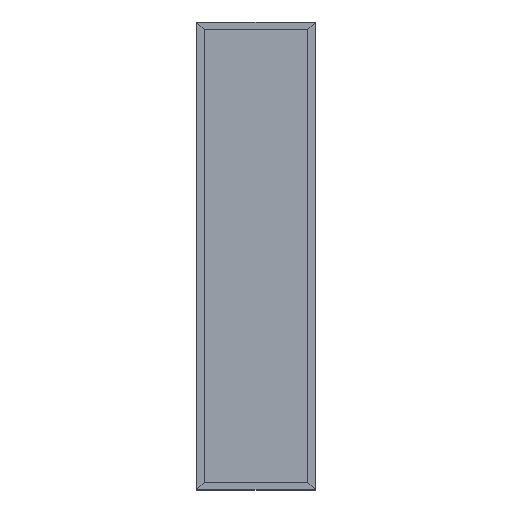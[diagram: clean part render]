
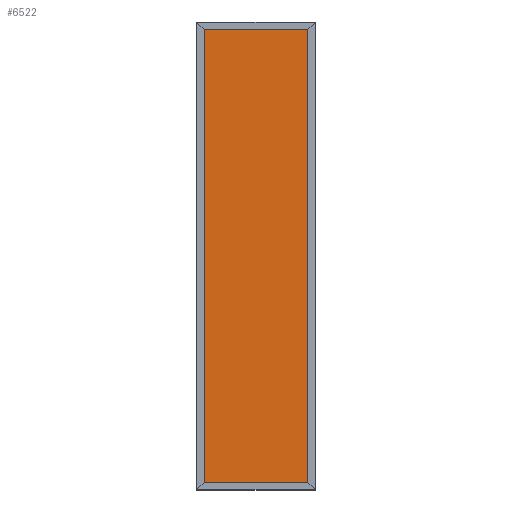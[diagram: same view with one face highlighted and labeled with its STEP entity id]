
A CAD part, top view. The second image highlights one B-rep face of the part: STEP entity #6522.
In plain terms, the highlighted planar face has unit normal (0, 0, 1).
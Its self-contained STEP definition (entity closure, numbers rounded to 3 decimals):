
#56 = DIRECTION ( 'NONE',  ( 0., 1., 0. ) ) ;
#180 = EDGE_LOOP ( 'NONE', ( #9958, #8045, #6531, #5160 ) ) ;
#1034 = CARTESIAN_POINT ( 'NONE',  ( -267.075, 0., -13.25 ) ) ;
#1296 = PLANE ( 'NONE',  #4394 ) ;
#1534 = CARTESIAN_POINT ( 'NONE',  ( 0., -1162.2, -13.25 ) ) ;
#1564 = VECTOR ( 'NONE', #14564, 1000. ) ;
#1765 = CARTESIAN_POINT ( 'NONE',  ( 267.075, 1162.2, -13.25 ) ) ;
#1820 = VECTOR ( 'NONE', #11188, 1000. ) ;
#2721 = VERTEX_POINT ( 'NONE', #1765 ) ;
#4394 = AXIS2_PLACEMENT_3D ( 'NONE', #13822, #10182, #11223 ) ;
#4546 = LINE ( 'NONE', #13635, #1820 ) ;
#5160 = ORIENTED_EDGE ( 'NONE', *, *, #8990, .F. ) ;
#5686 = LINE ( 'NONE', #9051, #1564 ) ;
#6418 = LINE ( 'NONE', #1034, #6821 ) ;
#6522 = ADVANCED_FACE ( 'NONE', ( #8093 ), #1296, .F. ) ;
#6531 = ORIENTED_EDGE ( 'NONE', *, *, #12628, .T. ) ;
#6821 = VECTOR ( 'NONE', #56, 1000. ) ;
#7245 = CARTESIAN_POINT ( 'NONE',  ( -267.075, 1162.2, -13.25 ) ) ;
#8045 = ORIENTED_EDGE ( 'NONE', *, *, #9025, .T. ) ;
#8093 = FACE_OUTER_BOUND ( 'NONE', #180, .T. ) ;
#8316 = LINE ( 'NONE', #1534, #13399 ) ;
#8800 = VERTEX_POINT ( 'NONE', #9323 ) ;
#8990 = EDGE_CURVE ( 'NONE', #8800, #13945, #6418, .T. ) ;
#9025 = EDGE_CURVE ( 'NONE', #9373, #2721, #4546, .T. ) ;
#9051 = CARTESIAN_POINT ( 'NONE',  ( 0., 1162.2, -13.25 ) ) ;
#9153 = CARTESIAN_POINT ( 'NONE',  ( 267.075, -1162.2, -13.25 ) ) ;
#9323 = CARTESIAN_POINT ( 'NONE',  ( -267.075, -1162.2, -13.25 ) ) ;
#9361 = DIRECTION ( 'NONE',  ( -1., 0., 0. ) ) ;
#9373 = VERTEX_POINT ( 'NONE', #9153 ) ;
#9551 = EDGE_CURVE ( 'NONE', #9373, #8800, #8316, .T. ) ;
#9958 = ORIENTED_EDGE ( 'NONE', *, *, #9551, .F. ) ;
#10182 = DIRECTION ( 'NONE',  ( 0., 0., -1. ) ) ;
#11188 = DIRECTION ( 'NONE',  ( 0., 1., 0. ) ) ;
#11223 = DIRECTION ( 'NONE',  ( -1., 0., 0. ) ) ;
#12628 = EDGE_CURVE ( 'NONE', #2721, #13945, #5686, .T. ) ;
#13399 = VECTOR ( 'NONE', #9361, 1000. ) ;
#13635 = CARTESIAN_POINT ( 'NONE',  ( 267.075, 0., -13.25 ) ) ;
#13822 = CARTESIAN_POINT ( 'NONE',  ( 0., 0., -13.25 ) ) ;
#13945 = VERTEX_POINT ( 'NONE', #7245 ) ;
#14564 = DIRECTION ( 'NONE',  ( -1., 0., 0. ) ) ;
